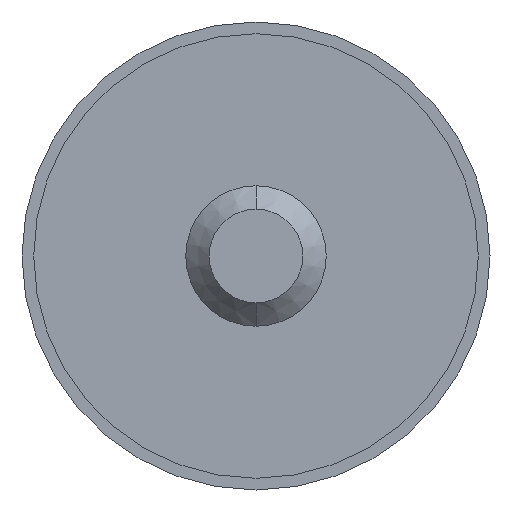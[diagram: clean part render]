
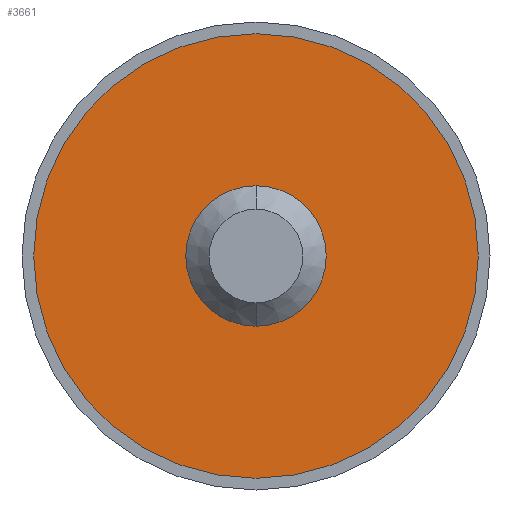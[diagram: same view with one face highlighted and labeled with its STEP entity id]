
A CAD part, front view. The second image highlights one B-rep face of the part: STEP entity #3661.
In plain terms, the highlighted planar face has unit normal (0, -1, 0).
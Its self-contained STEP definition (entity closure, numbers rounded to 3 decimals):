
#159 = EDGE_LOOP ( 'NONE', ( #2461, #2262 ) ) ;
#179 = DIRECTION ( 'NONE',  ( 0., 0., 1. ) ) ;
#208 = CARTESIAN_POINT ( 'NONE',  ( 0., -0.5, -3. ) ) ;
#298 = ORIENTED_EDGE ( 'NONE', *, *, #1700, .F. ) ;
#369 = AXIS2_PLACEMENT_3D ( 'NONE', #493, #1402, #179 ) ;
#493 = CARTESIAN_POINT ( 'NONE',  ( 0., -0.5, 0. ) ) ;
#702 = DIRECTION ( 'NONE',  ( 0., 1., 0. ) ) ;
#849 = DIRECTION ( 'NONE',  ( 0., 0., -1. ) ) ;
#896 = CIRCLE ( 'NONE', #3516, 9.5 ) ;
#998 = CARTESIAN_POINT ( 'NONE',  ( 0., -0.5, 9.5 ) ) ;
#1112 = EDGE_CURVE ( 'NONE', #1185, #3604, #3636, .T. ) ;
#1185 = VERTEX_POINT ( 'NONE', #208 ) ;
#1252 = DIRECTION ( 'NONE',  ( 0., -1., 0. ) ) ;
#1348 = EDGE_CURVE ( 'NONE', #3604, #1185, #3247, .T. ) ;
#1402 = DIRECTION ( 'NONE',  ( 0., 1., 0. ) ) ;
#1457 = CARTESIAN_POINT ( 'NONE',  ( 0., -0.5, 0. ) ) ;
#1462 = EDGE_CURVE ( 'NONE', #2411, #3268, #896, .T. ) ;
#1570 = DIRECTION ( 'NONE',  ( 0., 0., -1. ) ) ;
#1688 = CARTESIAN_POINT ( 'NONE',  ( 0., -0.5, -9.5 ) ) ;
#1700 = EDGE_CURVE ( 'NONE', #3268, #2411, #2838, .T. ) ;
#1908 = PLANE ( 'NONE',  #2407 ) ;
#1961 = DIRECTION ( 'NONE',  ( 0., 0., 1. ) ) ;
#2169 = DIRECTION ( 'NONE',  ( 0., 0., 1. ) ) ;
#2255 = ORIENTED_EDGE ( 'NONE', *, *, #1462, .F. ) ;
#2262 = ORIENTED_EDGE ( 'NONE', *, *, #1112, .F. ) ;
#2316 = CARTESIAN_POINT ( 'NONE',  ( 0., -0.5, 0. ) ) ;
#2407 = AXIS2_PLACEMENT_3D ( 'NONE', #3434, #702, #1961 ) ;
#2411 = VERTEX_POINT ( 'NONE', #1688 ) ;
#2461 = ORIENTED_EDGE ( 'NONE', *, *, #1348, .F. ) ;
#2838 = CIRCLE ( 'NONE', #369, 9.5 ) ;
#2893 = AXIS2_PLACEMENT_3D ( 'NONE', #1457, #3620, #849 ) ;
#3192 = AXIS2_PLACEMENT_3D ( 'NONE', #2316, #1252, #1570 ) ;
#3233 = FACE_BOUND ( 'NONE', #159, .T. ) ;
#3247 = CIRCLE ( 'NONE', #2893, 3. ) ;
#3268 = VERTEX_POINT ( 'NONE', #998 ) ;
#3337 = FACE_OUTER_BOUND ( 'NONE', #3460, .T. ) ;
#3434 = CARTESIAN_POINT ( 'NONE',  ( 0., -0.5, 0. ) ) ;
#3460 = EDGE_LOOP ( 'NONE', ( #298, #2255 ) ) ;
#3516 = AXIS2_PLACEMENT_3D ( 'NONE', #3697, #3679, #2169 ) ;
#3604 = VERTEX_POINT ( 'NONE', #3758 ) ;
#3620 = DIRECTION ( 'NONE',  ( 0., -1., 0. ) ) ;
#3636 = CIRCLE ( 'NONE', #3192, 3. ) ;
#3661 = ADVANCED_FACE ( 'NONE', ( #3233, #3337 ), #1908, .F. ) ;
#3679 = DIRECTION ( 'NONE',  ( 0., 1., 0. ) ) ;
#3697 = CARTESIAN_POINT ( 'NONE',  ( 0., -0.5, 0. ) ) ;
#3758 = CARTESIAN_POINT ( 'NONE',  ( 0., -0.5, 3. ) ) ;
